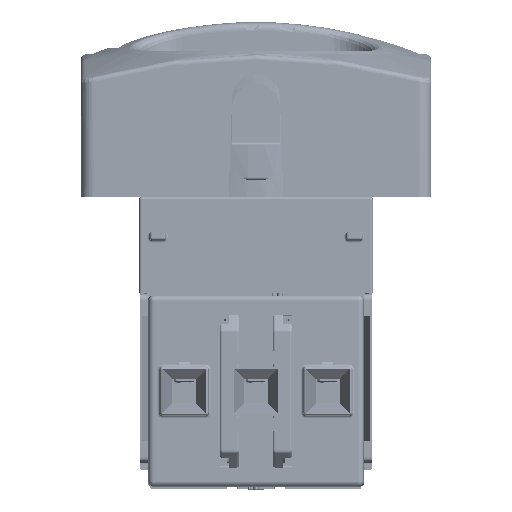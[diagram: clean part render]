
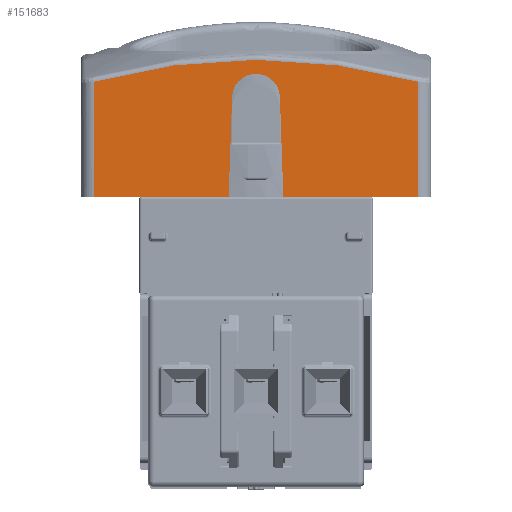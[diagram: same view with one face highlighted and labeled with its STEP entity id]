
A CAD part, front view. The second image highlights one B-rep face of the part: STEP entity #151683.
In plain terms, the highlighted planar face has unit normal (0, -1, 0) as drawn and (0, 1, 0) by its records, which use the part's own axes.
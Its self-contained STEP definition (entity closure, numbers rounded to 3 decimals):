
#151640=AXIS2_PLACEMENT_3D('Plane Axis2P3D',#151637,#151638,#151639) ;
#151651=AXIS2_PLACEMENT_3D('Circle Axis2P3D',#151649,#151650,$) ;
#151670=AXIS2_PLACEMENT_3D('Circle Axis2P3D',#151668,#151669,$) ;
#150498=CARTESIAN_POINT('Vertex',(-30.5,33.,-1.95)) ;
#150501=CARTESIAN_POINT('Line Origine',(-17.828,33.,-1.95)) ;
#150505=CARTESIAN_POINT('Vertex',(-5.156,33.,-1.95)) ;
#150526=CARTESIAN_POINT('Vertex',(5.156,33.,-1.95)) ;
#150529=CARTESIAN_POINT('Line Origine',(17.828,33.,-1.95)) ;
#150533=CARTESIAN_POINT('Vertex',(30.5,33.,-1.95)) ;
#151608=CARTESIAN_POINT('Line Origine',(30.5,33.,11.5)) ;
#151612=CARTESIAN_POINT('Vertex',(30.5,33.,19.745)) ;
#151637=CARTESIAN_POINT('Axis2P3D Location',(-30.5,33.,0.)) ;
#151642=CARTESIAN_POINT('Line Origine',(4.827,33.,7.479)) ;
#151646=CARTESIAN_POINT('Vertex',(4.497,33.,16.907)) ;
#151649=CARTESIAN_POINT('Axis2P3D Location',(0.,33.,16.75)) ;
#151653=CARTESIAN_POINT('Vertex',(-4.497,33.,16.907)) ;
#151656=CARTESIAN_POINT('Line Origine',(-4.827,33.,7.479)) ;
#151661=CARTESIAN_POINT('Line Origine',(-30.5,33.,8.897)) ;
#151665=CARTESIAN_POINT('Vertex',(-30.5,33.,19.745)) ;
#151668=CARTESIAN_POINT('Axis2P3D Location',(0.,33.,-90.739)) ;
#150502=DIRECTION('Vector Direction',(1.,0.,0.)) ;
#150530=DIRECTION('Vector Direction',(1.,0.,0.)) ;
#151609=DIRECTION('Vector Direction',(0.,0.,1.)) ;
#151638=DIRECTION('Axis2P3D Direction',(0.,-1.,0.)) ;
#151639=DIRECTION('Axis2P3D XDirection',(1.,0.,0.)) ;
#151643=DIRECTION('Vector Direction',(-0.035,0.,0.999)) ;
#151650=DIRECTION('Axis2P3D Direction',(0.,-1.,0.)) ;
#151657=DIRECTION('Vector Direction',(-0.035,0.,-0.999)) ;
#151662=DIRECTION('Vector Direction',(0.,0.,1.)) ;
#151669=DIRECTION('Axis2P3D Direction',(0.,-1.,0.)) ;
#150503=VECTOR('Line Direction',#150502,1.) ;
#150531=VECTOR('Line Direction',#150530,1.) ;
#151610=VECTOR('Line Direction',#151609,1.) ;
#151644=VECTOR('Line Direction',#151643,1.) ;
#151658=VECTOR('Line Direction',#151657,1.) ;
#151663=VECTOR('Line Direction',#151662,1.) ;
#151674=ORIENTED_EDGE('',*,*,#151648,.F.) ;
#151675=ORIENTED_EDGE('',*,*,#151655,.F.) ;
#151676=ORIENTED_EDGE('',*,*,#151660,.F.) ;
#151677=ORIENTED_EDGE('',*,*,#150507,.T.) ;
#151678=ORIENTED_EDGE('',*,*,#151667,.T.) ;
#151679=ORIENTED_EDGE('',*,*,#151672,.T.) ;
#151680=ORIENTED_EDGE('',*,*,#151614,.F.) ;
#151681=ORIENTED_EDGE('',*,*,#150535,.T.) ;
#151683=ADVANCED_FACE('Corps principal',(#151682),#151641,.F.) ;
#151652=CIRCLE('generated circle',#151651,4.5) ;
#151671=CIRCLE('generated circle',#151670,114.617) ;
#150507=EDGE_CURVE('',#150506,#150499,#150504,.F.) ;
#150535=EDGE_CURVE('',#150534,#150527,#150532,.F.) ;
#151614=EDGE_CURVE('',#150534,#151613,#151611,.T.) ;
#151648=EDGE_CURVE('',#151647,#150527,#151645,.F.) ;
#151655=EDGE_CURVE('',#151654,#151647,#151652,.F.) ;
#151660=EDGE_CURVE('',#150506,#151654,#151659,.F.) ;
#151667=EDGE_CURVE('',#150499,#151666,#151664,.T.) ;
#151672=EDGE_CURVE('',#151666,#151613,#151671,.F.) ;
#151673=EDGE_LOOP('',(#151674,#151675,#151676,#151677,#151678,#151679,#151680,#151681)) ;
#151682=FACE_OUTER_BOUND('',#151673,.T.) ;
#150504=LINE('Line',#150501,#150503) ;
#150532=LINE('Line',#150529,#150531) ;
#151611=LINE('Line',#151608,#151610) ;
#151645=LINE('Line',#151642,#151644) ;
#151659=LINE('Line',#151656,#151658) ;
#151664=LINE('Line',#151661,#151663) ;
#151641=PLANE('Plane',#151640) ;
#150499=VERTEX_POINT('',#150498) ;
#150506=VERTEX_POINT('',#150505) ;
#150527=VERTEX_POINT('',#150526) ;
#150534=VERTEX_POINT('',#150533) ;
#151613=VERTEX_POINT('',#151612) ;
#151647=VERTEX_POINT('',#151646) ;
#151654=VERTEX_POINT('',#151653) ;
#151666=VERTEX_POINT('',#151665) ;
